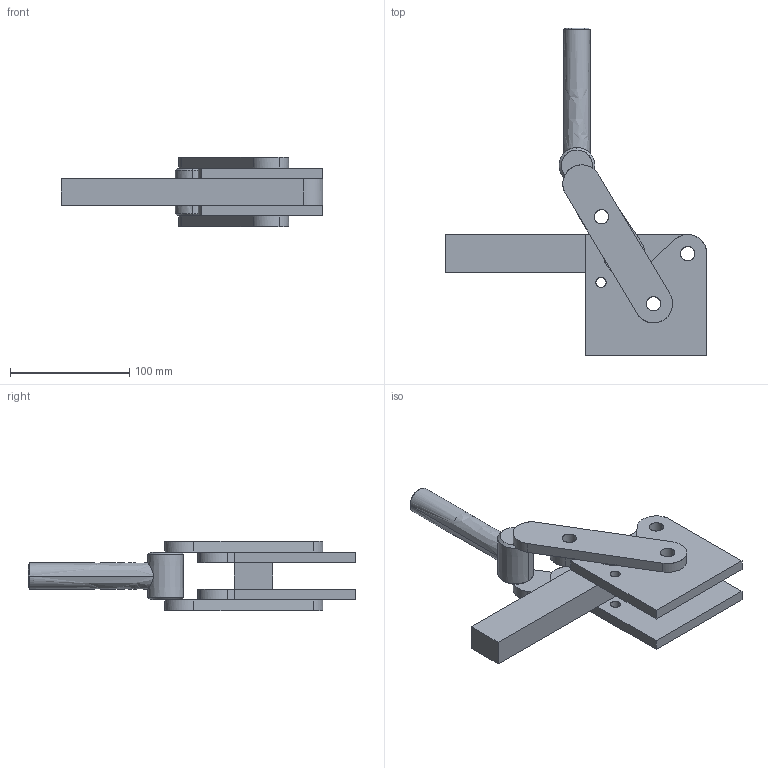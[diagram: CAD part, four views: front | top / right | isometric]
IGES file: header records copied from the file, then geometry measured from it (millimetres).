
Start section: Comment
Global section: file name: 75078.igs; native system:  By Spatial Corp.; preprocessor: XPlus PS/IGES 3.0; author: Author; organization: Title; date: 20050217.133621; units: inch
Bounding box: 219.12 x 274.69 x 58.2 mm (x, y, z)
Surface area: 117288.5 mm2 (no closed solid volume)
Topology: 0 solids, 0 shells, 100 faces, 492 edges, 492 vertices
Faces by surface type: revolution 60, extrusion 40
